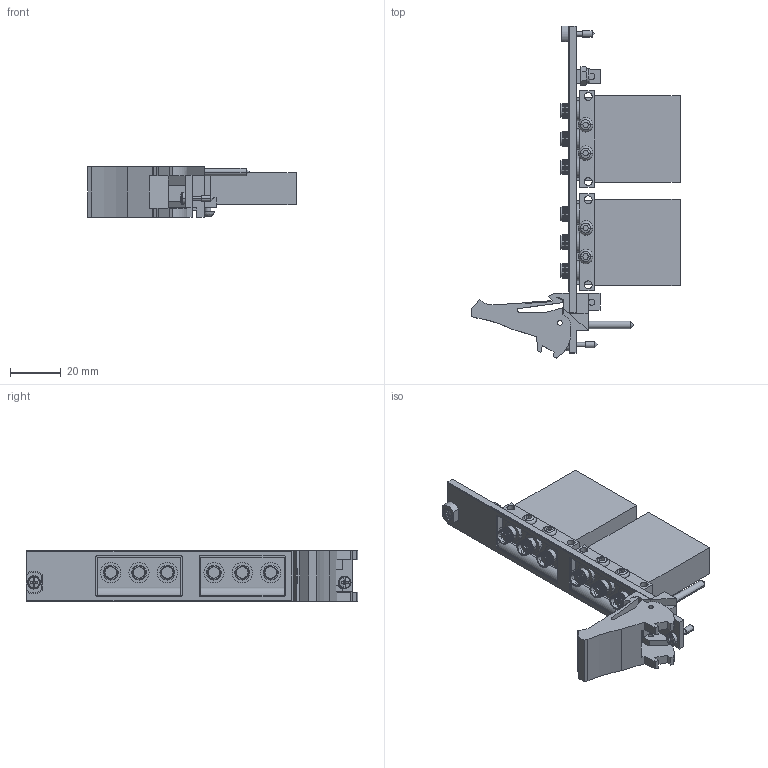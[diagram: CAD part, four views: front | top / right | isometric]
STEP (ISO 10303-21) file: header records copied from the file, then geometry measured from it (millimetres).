
FILE_DESCRIPTION((''),'2;1');
FILE_NAME('CU_PXI-2799','2013-01-08T',('jjorden'),(''),'PRO/ENGINEER BY PARAMETRIC TECHNOLOGY CORPORATION, 2011490','PRO/ENGINEER BY PARAMETRIC TECHNOLOGY CORPORATION, 2011490','');
FILE_SCHEMA(('CONFIG_CONTROL_DESIGN'));
Length unit declared in the file: inch
Products named in the file (1): CU_PXI-2799
Bounding box: 81.91 x 130.61 x 20.02 mm (x, y, z)
Volume: 49405.2 mm3; surface area: 22539.9 mm2
Topology: 1 solids, 1 shells, 910 faces, 2120 edges, 1236 vertices
Faces by surface type: plane 421, cone 290, cylinder 139, sphere 24, torus 18, bspline 18
Entity records: 26828 total; most frequent: CARTESIAN_POINT 5809, DIRECTION 4575, ORIENTED_EDGE 4208, EDGE_CURVE 2104, AXIS2_PLACEMENT_3D 1650, VERTEX_POINT 1293, VECTOR 1275, LINE 1275
